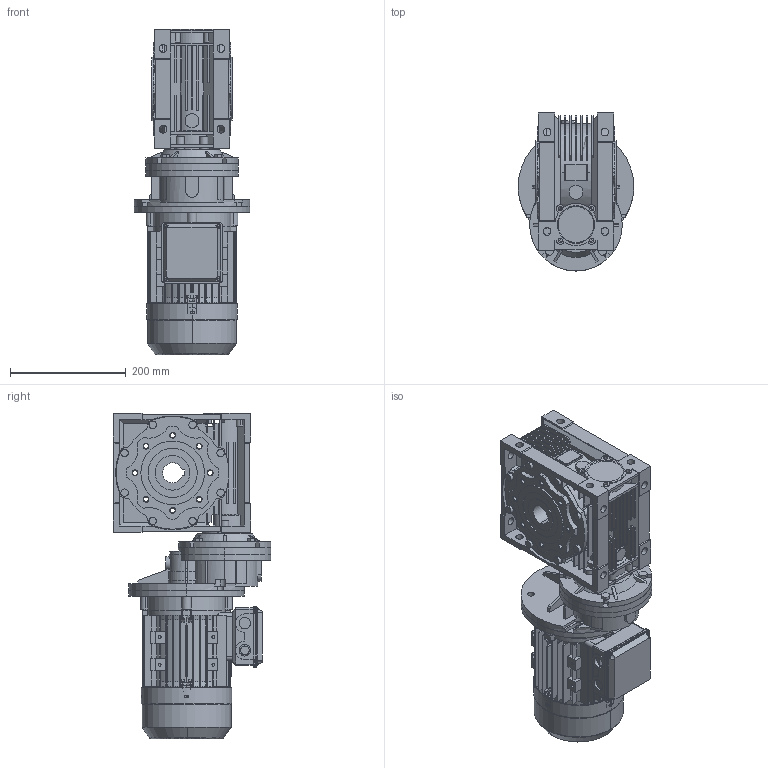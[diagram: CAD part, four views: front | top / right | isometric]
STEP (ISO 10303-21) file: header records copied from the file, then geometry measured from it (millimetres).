
FILE_DESCRIPTION (( 'STEP AP214' ), '1' );
FILE_NAME ('CMRV090_PC080_MX-80.STEP', '2018-07-26T07:11:46', ( '' ), ( '' ), 'SwSTEP 2.0', 'SolidWorks 2012', '' );
FILE_SCHEMA (( 'AUTOMOTIVE_DESIGN' ));
Length unit declared in the file: millimetre
Products named in the file (23): PC080_MX-80; MX80_B5; L黤terfl黦el_MS80; Lüfterhaube_MS80; B-Lagerschild_MS80; Klemmenkastendeckel_MS80; Klemmenkastenunterteil_MS80; B5-Flansch_MS80; Gehäuse_MS80; PC080-A08_Ø28.LK130; ã¢+³A6í-6í-36; GBú»T13871ú«1-2007¦¢ð++_ÀÔ+ª30í-55í-8_B1; -+-¨¢ÃÈ¦Í¨-À-¦ÂñM8í-22; Ë-ÀÔ-30í-47í-7_B1; PC90ﾂ-ｩﾃ; -ﾟﾎﾚ+ｦ; -ﾟ; -õ+ÙÍßÎÚ+¦; +_ÀÔ©Ã-32í-7; 戌俓; PC90火耳; CMRV090_B10; CMRV090_PC080_MX-80
Assembly tree (26 placements, depth 5):
  CMRV090_PC080_MX-80
    CMRV090_B10
    PC080_MX-80
      PC080-A08_Ø28.LK130
        PC90火耳
        -õ+ÙÍßÎÚ+¦
          戌俓
          +_ÀÔ©Ã-32í-7
        -ﾟﾎﾚ+ｦ
          -ﾟ
        PC90ﾂ-ｩﾃ
        Ë-ÀÔ-30í-47í-7_B1
        -+-¨¢ÃÈ¦Í¨-À-¦ÂñM8í-22  x5
        GBú»T13871ú«1-2007¦¢ð++_ÀÔ+ª30í-55í-8_B1
        ã¢+³A6í-6í-36
      MX80_B5
        Gehäuse_MS80
        B5-Flansch_MS80
        Klemmenkastenunterteil_MS80
        Klemmenkastendeckel_MS80
        B-Lagerschild_MS80
        Lüfterhaube_MS80
        L黤terfl黦el_MS80
Bounding box: 200 x 273 x 563 mm (x, y, z)
Volume: 2330734.4 mm3; surface area: 1468070.3 mm2
Topology: 20 solids, 46 shells, 4204 faces, 11397 edges, 7408 vertices
Faces by surface type: plane 2338, cylinder 1160, cone 525, bspline 181
Entity records: 147805 total; most frequent: CARTESIAN_POINT 32335, ORIENTED_EDGE 20358, DIRECTION 19834, EDGE_CURVE 10433, VERTEX_POINT 6864, VECTOR 6854, LINE 6854, AXIS2_PLACEMENT_3D 6490
